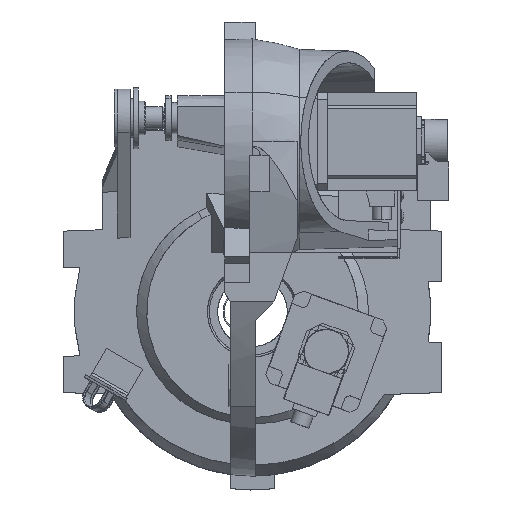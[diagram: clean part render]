
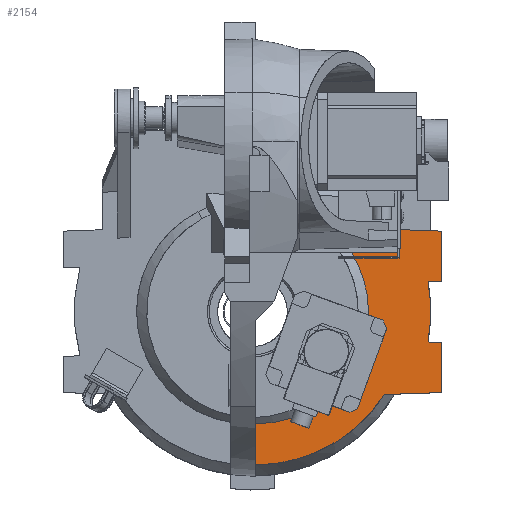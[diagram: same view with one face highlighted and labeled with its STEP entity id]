
A CAD part, top view. The second image highlights one B-rep face of the part: STEP entity #2154.
In plain terms, the highlighted planar face has unit normal (-0.035, 0, -0.999).
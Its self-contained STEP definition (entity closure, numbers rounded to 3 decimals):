
#1993=CARTESIAN_POINT('Axis2P3D Location',(5.,148.317,352.825)) ;
#1999=CARTESIAN_POINT('Control Point',(201.414,-52.06,345.966)) ;
#2000=CARTESIAN_POINT('Control Point',(209.925,-20.318,345.669)) ;
#2001=CARTESIAN_POINT('Control Point',(211.958,13.179,345.598)) ;
#2002=CARTESIAN_POINT('Control Point',(207.001,46.651,345.771)) ;
#2003=CARTESIAN_POINT('Control Point',(195.364,78.105,346.178)) ;
#2004=CARTESIAN_POINT('Control Point',(178.054,106.,346.782)) ;
#2005=CARTESIAN_POINT('Vertex',(201.414,-52.06,345.966)) ;
#2007=CARTESIAN_POINT('Vertex',(178.054,106.,346.782)) ;
#2011=CARTESIAN_POINT('Control Point',(178.054,106.,346.782)) ;
#2012=CARTESIAN_POINT('Control Point',(245.,106.,344.444)) ;
#2013=CARTESIAN_POINT('Vertex',(245.,106.,344.444)) ;
#2017=CARTESIAN_POINT('Control Point',(245.,106.,344.444)) ;
#2018=CARTESIAN_POINT('Control Point',(245.,148.317,344.444)) ;
#2019=CARTESIAN_POINT('Vertex',(245.,148.317,344.444)) ;
#2023=CARTESIAN_POINT('Control Point',(245.,148.317,344.444)) ;
#2024=CARTESIAN_POINT('Control Point',(340.,145.,341.127)) ;
#2025=CARTESIAN_POINT('Vertex',(340.,145.,341.127)) ;
#2029=CARTESIAN_POINT('Control Point',(340.,145.,341.127)) ;
#2030=CARTESIAN_POINT('Control Point',(340.,55.,341.127)) ;
#2031=CARTESIAN_POINT('Vertex',(340.,55.,341.127)) ;
#2035=CARTESIAN_POINT('Control Point',(340.,55.,341.127)) ;
#2036=CARTESIAN_POINT('Control Point',(315.387,54.14,341.986)) ;
#2037=CARTESIAN_POINT('Vertex',(315.387,54.14,341.986)) ;
#2041=CARTESIAN_POINT('Control Point',(315.387,54.14,341.986)) ;
#2042=CARTESIAN_POINT('Control Point',(319.068,32.694,341.858)) ;
#2043=CARTESIAN_POINT('Control Point',(320.927,10.933,341.793)) ;
#2044=CARTESIAN_POINT('Control Point',(320.927,-10.933,341.793)) ;
#2045=CARTESIAN_POINT('Control Point',(319.068,-32.694,341.858)) ;
#2046=CARTESIAN_POINT('Control Point',(315.387,-54.14,341.986)) ;
#2047=CARTESIAN_POINT('Vertex',(315.387,-54.14,341.986)) ;
#2051=CARTESIAN_POINT('Control Point',(315.387,-54.14,341.986)) ;
#2052=CARTESIAN_POINT('Control Point',(340.,-55.,341.127)) ;
#2053=CARTESIAN_POINT('Vertex',(340.,-55.,341.127)) ;
#2057=CARTESIAN_POINT('Control Point',(340.,-55.,341.127)) ;
#2058=CARTESIAN_POINT('Control Point',(340.,-145.,341.127)) ;
#2059=CARTESIAN_POINT('Vertex',(340.,-145.,341.127)) ;
#2063=CARTESIAN_POINT('Control Point',(340.,-145.,341.127)) ;
#2064=CARTESIAN_POINT('Control Point',(236.801,-148.604,344.731)) ;
#2065=CARTESIAN_POINT('Vertex',(236.801,-148.604,344.731)) ;
#2069=CARTESIAN_POINT('Control Point',(236.801,-148.604,344.731)) ;
#2070=CARTESIAN_POINT('Control Point',(206.983,-194.985,345.772)) ;
#2071=CARTESIAN_POINT('Control Point',(165.557,-233.873,347.219)) ;
#2072=CARTESIAN_POINT('Control Point',(115.031,-261.33,348.983)) ;
#2073=CARTESIAN_POINT('Control Point',(59.985,-274.955,350.905)) ;
#2074=CARTESIAN_POINT('Control Point',(5.,-274.848,352.825)) ;
#2075=CARTESIAN_POINT('Vertex',(5.,-274.848,352.825)) ;
#2079=CARTESIAN_POINT('Control Point',(5.,-274.848,352.825)) ;
#2080=CARTESIAN_POINT('Control Point',(5.,-201.112,352.825)) ;
#2081=CARTESIAN_POINT('Vertex',(5.,-201.112,352.825)) ;
#2085=CARTESIAN_POINT('Control Point',(5.,-201.112,352.825)) ;
#2086=CARTESIAN_POINT('Control Point',(24.251,-201.306,352.153)) ;
#2087=CARTESIAN_POINT('Control Point',(43.542,-199.2,351.479)) ;
#2088=CARTESIAN_POINT('Control Point',(62.505,-194.781,350.817)) ;
#2089=CARTESIAN_POINT('Control Point',(80.772,-188.126,350.179)) ;
#2090=CARTESIAN_POINT('Control Point',(98.005,-179.398,349.578)) ;
#2091=CARTESIAN_POINT('Vertex',(98.005,-179.398,349.578)) ;
#2095=CARTESIAN_POINT('Control Point',(98.005,-179.398,349.578)) ;
#2096=CARTESIAN_POINT('Control Point',(111.191,-172.719,349.117)) ;
#2097=CARTESIAN_POINT('Control Point',(123.772,-164.826,348.678)) ;
#2098=CARTESIAN_POINT('Control Point',(135.599,-155.79,348.265)) ;
#2099=CARTESIAN_POINT('Control Point',(146.533,-145.711,347.883)) ;
#2100=CARTESIAN_POINT('Control Point',(156.46,-134.713,347.536)) ;
#2101=CARTESIAN_POINT('Vertex',(156.46,-134.713,347.536)) ;
#2105=CARTESIAN_POINT('Control Point',(156.46,-134.713,347.536)) ;
#2106=CARTESIAN_POINT('Control Point',(167.803,-130.414,347.14)) ;
#2107=CARTESIAN_POINT('Control Point',(178.175,-123.55,346.778)) ;
#2108=CARTESIAN_POINT('Control Point',(186.797,-114.405,346.477)) ;
#2109=CARTESIAN_POINT('Control Point',(193.041,-103.643,346.259)) ;
#2110=CARTESIAN_POINT('Control Point',(196.664,-92.06,346.132)) ;
#2111=CARTESIAN_POINT('Vertex',(196.664,-92.06,346.132)) ;
#2115=CARTESIAN_POINT('Control Point',(196.664,-92.06,346.132)) ;
#2116=CARTESIAN_POINT('Control Point',(212.242,-92.06,345.588)) ;
#2117=CARTESIAN_POINT('Vertex',(212.242,-92.06,345.588)) ;
#2121=CARTESIAN_POINT('Control Point',(212.242,-92.06,345.588)) ;
#2122=CARTESIAN_POINT('Control Point',(214.213,-84.223,345.52)) ;
#2123=CARTESIAN_POINT('Control Point',(215.219,-76.143,345.484)) ;
#2124=CARTESIAN_POINT('Control Point',(215.219,-67.978,345.484)) ;
#2125=CARTESIAN_POINT('Control Point',(214.213,-59.897,345.52)) ;
#2126=CARTESIAN_POINT('Control Point',(212.242,-52.06,345.588)) ;
#2127=CARTESIAN_POINT('Vertex',(212.242,-52.06,345.588)) ;
#2131=CARTESIAN_POINT('Control Point',(212.242,-52.06,345.588)) ;
#2132=CARTESIAN_POINT('Control Point',(201.414,-52.06,345.966)) ;
#1994=DIRECTION('Axis2P3D Direction',(-0.035,0.,-0.999)) ;
#1995=DIRECTION('Axis2P3D XDirection',(0.999,0.,-0.035)) ;
#1996=AXIS2_PLACEMENT_3D('Plane Axis2P3D',#1993,#1994,#1995) ;
#2135=ORIENTED_EDGE('',*,*,#2009,.T.) ;
#2136=ORIENTED_EDGE('',*,*,#2015,.T.) ;
#2137=ORIENTED_EDGE('',*,*,#2021,.T.) ;
#2138=ORIENTED_EDGE('',*,*,#2027,.T.) ;
#2139=ORIENTED_EDGE('',*,*,#2033,.T.) ;
#2140=ORIENTED_EDGE('',*,*,#2039,.T.) ;
#2141=ORIENTED_EDGE('',*,*,#2049,.T.) ;
#2142=ORIENTED_EDGE('',*,*,#2055,.T.) ;
#2143=ORIENTED_EDGE('',*,*,#2061,.T.) ;
#2144=ORIENTED_EDGE('',*,*,#2067,.T.) ;
#2145=ORIENTED_EDGE('',*,*,#2077,.T.) ;
#2146=ORIENTED_EDGE('',*,*,#2083,.T.) ;
#2147=ORIENTED_EDGE('',*,*,#2093,.T.) ;
#2148=ORIENTED_EDGE('',*,*,#2103,.T.) ;
#2149=ORIENTED_EDGE('',*,*,#2113,.T.) ;
#2150=ORIENTED_EDGE('',*,*,#2119,.T.) ;
#2151=ORIENTED_EDGE('',*,*,#2129,.T.) ;
#2152=ORIENTED_EDGE('',*,*,#2133,.T.) ;
#2154=ADVANCED_FACE('E__A I_____',(#2153),#1997,.T.) ;
#1998=B_SPLINE_CURVE_WITH_KNOTS('',5,(#1999,#2000,#2001,#2002,#2003,#2004),.UNSPECIFIED.,.F.,.U.,(6,6),(0.,166.636),.UNSPECIFIED.) ;
#2010=B_SPLINE_CURVE_WITH_KNOTS('',1,(#2011,#2012),.UNSPECIFIED.,.F.,.U.,(2,2),(0.,66.987),.UNSPECIFIED.) ;
#2016=B_SPLINE_CURVE_WITH_KNOTS('',1,(#2017,#2018),.UNSPECIFIED.,.F.,.U.,(2,2),(0.,42.317),.UNSPECIFIED.) ;
#2022=B_SPLINE_CURVE_WITH_KNOTS('',1,(#2023,#2024),.UNSPECIFIED.,.F.,.U.,(2,2),(0.,95.116),.UNSPECIFIED.) ;
#2028=B_SPLINE_CURVE_WITH_KNOTS('',1,(#2029,#2030),.UNSPECIFIED.,.F.,.U.,(2,2),(0.,90.),.UNSPECIFIED.) ;
#2034=B_SPLINE_CURVE_WITH_KNOTS('',1,(#2035,#2036),.UNSPECIFIED.,.F.,.U.,(2,2),(0.,24.643),.UNSPECIFIED.) ;
#2040=B_SPLINE_CURVE_WITH_KNOTS('',5,(#2041,#2042,#2043,#2044,#2045,#2046),.UNSPECIFIED.,.F.,.U.,(6,6),(0.,109.068),.UNSPECIFIED.) ;
#2050=B_SPLINE_CURVE_WITH_KNOTS('',1,(#2051,#2052),.UNSPECIFIED.,.F.,.U.,(2,2),(0.,24.643),.UNSPECIFIED.) ;
#2056=B_SPLINE_CURVE_WITH_KNOTS('',1,(#2057,#2058),.UNSPECIFIED.,.F.,.U.,(2,2),(0.,90.),.UNSPECIFIED.) ;
#2062=B_SPLINE_CURVE_WITH_KNOTS('',1,(#2063,#2064),.UNSPECIFIED.,.F.,.U.,(2,2),(0.,103.325),.UNSPECIFIED.) ;
#2068=B_SPLINE_CURVE_WITH_KNOTS('',5,(#2069,#2070,#2071,#2072,#2073,#2074),.UNSPECIFIED.,.F.,.U.,(6,6),(0.,281.276),.UNSPECIFIED.) ;
#2078=B_SPLINE_CURVE_WITH_KNOTS('',1,(#2079,#2080),.UNSPECIFIED.,.F.,.U.,(2,2),(0.,73.736),.UNSPECIFIED.) ;
#2084=B_SPLINE_CURVE_WITH_KNOTS('',5,(#2085,#2086,#2087,#2088,#2089,#2090),.UNSPECIFIED.,.F.,.U.,(6,6),(0.,96.942),.UNSPECIFIED.) ;
#2094=B_SPLINE_CURVE_WITH_KNOTS('',5,(#2095,#2096,#2097,#2098,#2099,#2100),.UNSPECIFIED.,.F.,.U.,(6,6),(0.,74.231),.UNSPECIFIED.) ;
#2104=B_SPLINE_CURVE_WITH_KNOTS('',5,(#2105,#2106,#2107,#2108,#2109,#2110),.UNSPECIFIED.,.F.,.U.,(6,6),(0.,61.733),.UNSPECIFIED.) ;
#2114=B_SPLINE_CURVE_WITH_KNOTS('',1,(#2115,#2116),.UNSPECIFIED.,.F.,.U.,(2,2),(0.,15.588),.UNSPECIFIED.) ;
#2120=B_SPLINE_CURVE_WITH_KNOTS('',5,(#2121,#2122,#2123,#2124,#2125,#2126),.UNSPECIFIED.,.F.,.U.,(6,6),(0.,40.614),.UNSPECIFIED.) ;
#2130=B_SPLINE_CURVE_WITH_KNOTS('',1,(#2131,#2132),.UNSPECIFIED.,.F.,.U.,(2,2),(0.,10.834),.UNSPECIFIED.) ;
#2009=EDGE_CURVE('',#2006,#2008,#1998,.T.) ;
#2015=EDGE_CURVE('',#2008,#2014,#2010,.T.) ;
#2021=EDGE_CURVE('',#2014,#2020,#2016,.T.) ;
#2027=EDGE_CURVE('',#2020,#2026,#2022,.T.) ;
#2033=EDGE_CURVE('',#2026,#2032,#2028,.T.) ;
#2039=EDGE_CURVE('',#2032,#2038,#2034,.T.) ;
#2049=EDGE_CURVE('',#2038,#2048,#2040,.T.) ;
#2055=EDGE_CURVE('',#2048,#2054,#2050,.T.) ;
#2061=EDGE_CURVE('',#2054,#2060,#2056,.T.) ;
#2067=EDGE_CURVE('',#2060,#2066,#2062,.T.) ;
#2077=EDGE_CURVE('',#2066,#2076,#2068,.T.) ;
#2083=EDGE_CURVE('',#2076,#2082,#2078,.T.) ;
#2093=EDGE_CURVE('',#2082,#2092,#2084,.T.) ;
#2103=EDGE_CURVE('',#2092,#2102,#2094,.T.) ;
#2113=EDGE_CURVE('',#2102,#2112,#2104,.T.) ;
#2119=EDGE_CURVE('',#2112,#2118,#2114,.T.) ;
#2129=EDGE_CURVE('',#2118,#2128,#2120,.T.) ;
#2133=EDGE_CURVE('',#2128,#2006,#2130,.T.) ;
#2134=EDGE_LOOP('',(#2135,#2136,#2137,#2138,#2139,#2140,#2141,#2142,#2143,#2144,#2145,#2146,#2147,#2148,#2149,#2150,#2151,#2152)) ;
#2153=FACE_OUTER_BOUND('',#2134,.T.) ;
#1997=PLANE('',#1996) ;
#2006=VERTEX_POINT('',#2005) ;
#2008=VERTEX_POINT('',#2007) ;
#2014=VERTEX_POINT('',#2013) ;
#2020=VERTEX_POINT('',#2019) ;
#2026=VERTEX_POINT('',#2025) ;
#2032=VERTEX_POINT('',#2031) ;
#2038=VERTEX_POINT('',#2037) ;
#2048=VERTEX_POINT('',#2047) ;
#2054=VERTEX_POINT('',#2053) ;
#2060=VERTEX_POINT('',#2059) ;
#2066=VERTEX_POINT('',#2065) ;
#2076=VERTEX_POINT('',#2075) ;
#2082=VERTEX_POINT('',#2081) ;
#2092=VERTEX_POINT('',#2091) ;
#2102=VERTEX_POINT('',#2101) ;
#2112=VERTEX_POINT('',#2111) ;
#2118=VERTEX_POINT('',#2117) ;
#2128=VERTEX_POINT('',#2127) ;
